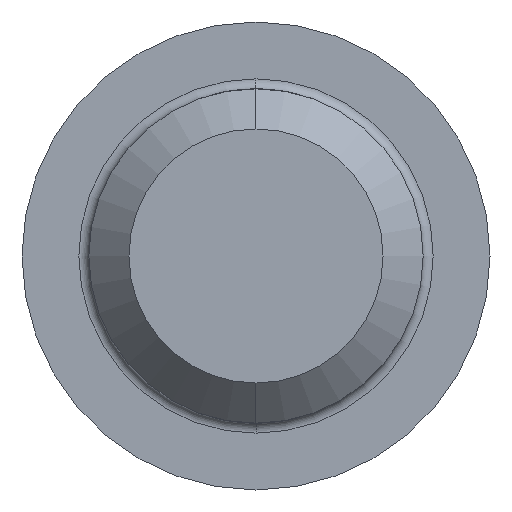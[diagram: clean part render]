
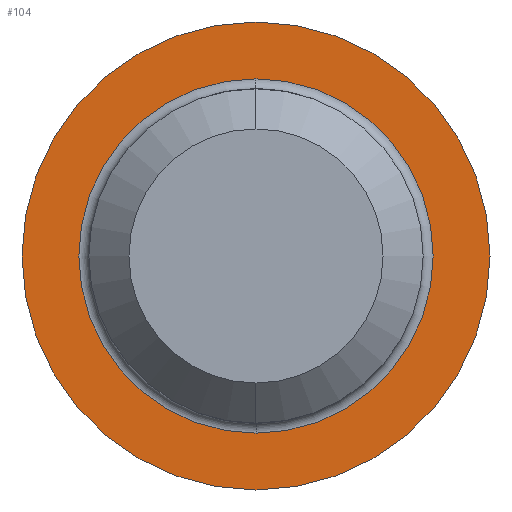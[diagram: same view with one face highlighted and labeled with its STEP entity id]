
A CAD part, left-side view. The second image highlights one B-rep face of the part: STEP entity #104.
In plain terms, the highlighted planar face has unit normal (-1, 0, 0).
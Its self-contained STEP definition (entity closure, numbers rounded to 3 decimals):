
#70 = EDGE_CURVE ( 'NONE', #106, #75, #223, .T. ) ;
#75 = VERTEX_POINT ( 'NONE', #416 ) ;
#102 = EDGE_CURVE ( 'NONE', #75, #106, #353, .T. ) ;
#104 = ADVANCED_FACE ( 'NONE', ( #351, #361 ), #236, .F. ) ;
#106 = VERTEX_POINT ( 'NONE', #346 ) ;
#107 = ORIENTED_EDGE ( 'NONE', *, *, #70, .T. ) ;
#110 = ORIENTED_EDGE ( 'NONE', *, *, #185, .T. ) ;
#111 = ORIENTED_EDGE ( 'NONE', *, *, #123, .T. ) ;
#118 = ORIENTED_EDGE ( 'NONE', *, *, #102, .T. ) ;
#123 = EDGE_CURVE ( 'NONE', #130, #184, #274, .T. ) ;
#124 = EDGE_LOOP ( 'NONE', ( #118, #107 ) ) ;
#130 = VERTEX_POINT ( 'NONE', #275 ) ;
#158 = EDGE_LOOP ( 'NONE', ( #110, #111 ) ) ;
#184 = VERTEX_POINT ( 'NONE', #426 ) ;
#185 = EDGE_CURVE ( 'NONE', #184, #130, #439, .T. ) ;
#208 = DIRECTION ( 'NONE',  ( 0., 0., -1. ) ) ;
#209 = DIRECTION ( 'NONE',  ( 1., 0., 0. ) ) ;
#210 = AXIS2_PLACEMENT_3D ( 'NONE', #222, #209, #208 ) ;
#222 = CARTESIAN_POINT ( 'NONE',  ( 0., 0., 0. ) ) ;
#223 = CIRCLE ( 'NONE', #210, 5.3 ) ;
#236 = PLANE ( 'NONE',  #365 ) ;
#270 = DIRECTION ( 'NONE',  ( 0., 0., 1. ) ) ;
#271 = DIRECTION ( 'NONE',  ( -1., 0., 0. ) ) ;
#272 = CARTESIAN_POINT ( 'NONE',  ( 0., 0., 0. ) ) ;
#273 = AXIS2_PLACEMENT_3D ( 'NONE', #272, #271, #270 ) ;
#274 = CIRCLE ( 'NONE', #273, 7. ) ;
#275 = CARTESIAN_POINT ( 'NONE',  ( 0., 0., -7. ) ) ;
#346 = CARTESIAN_POINT ( 'NONE',  ( 0., 0., 5.3 ) ) ;
#347 = DIRECTION ( 'NONE',  ( 0., 0., -1. ) ) ;
#348 = DIRECTION ( 'NONE',  ( 1., 0., 0. ) ) ;
#349 = DIRECTION ( 'NONE',  ( 0., 0., -1. ) ) ;
#350 = DIRECTION ( 'NONE',  ( 1., 0., 0. ) ) ;
#351 = FACE_BOUND ( 'NONE', #124, .T. ) ;
#353 = CIRCLE ( 'NONE', #364, 5.3 ) ;
#361 = FACE_OUTER_BOUND ( 'NONE', #158, .T. ) ;
#362 = CARTESIAN_POINT ( 'NONE',  ( 0., 7., 0. ) ) ;
#364 = AXIS2_PLACEMENT_3D ( 'NONE', #402, #348, #347 ) ;
#365 = AXIS2_PLACEMENT_3D ( 'NONE', #362, #350, #349 ) ;
#402 = CARTESIAN_POINT ( 'NONE',  ( 0., 0., 0. ) ) ;
#416 = CARTESIAN_POINT ( 'NONE',  ( 0., 0., -5.3 ) ) ;
#426 = CARTESIAN_POINT ( 'NONE',  ( 0., 0., 7. ) ) ;
#432 = CARTESIAN_POINT ( 'NONE',  ( 0., 0., 0. ) ) ;
#436 = DIRECTION ( 'NONE',  ( 0., 0., 1. ) ) ;
#437 = DIRECTION ( 'NONE',  ( -1., 0., 0. ) ) ;
#439 = CIRCLE ( 'NONE', #442, 7. ) ;
#442 = AXIS2_PLACEMENT_3D ( 'NONE', #432, #437, #436 ) ;
